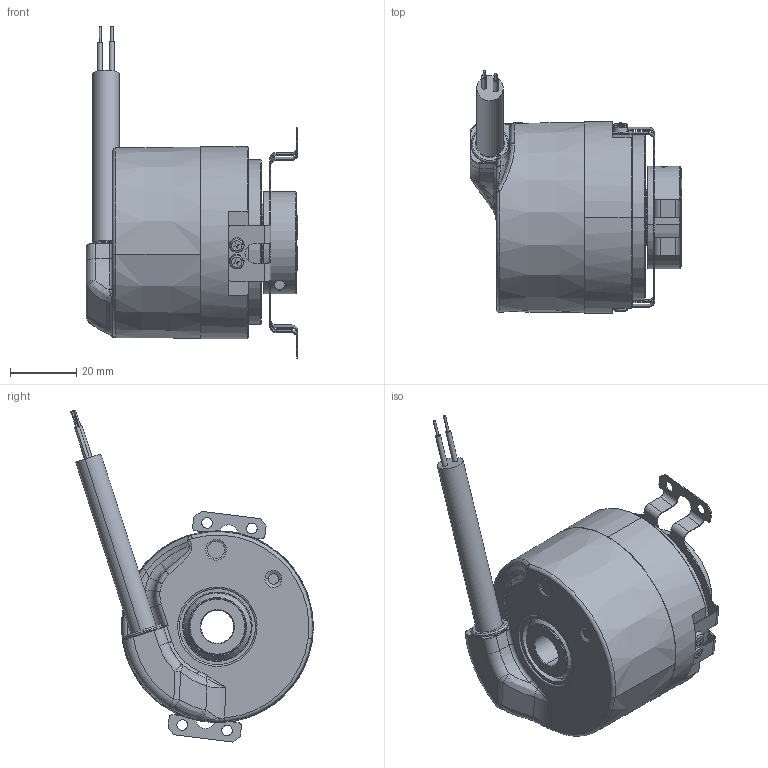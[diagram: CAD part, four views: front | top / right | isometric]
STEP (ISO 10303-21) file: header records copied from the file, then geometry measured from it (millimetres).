
FILE_DESCRIPTION (( 'STEP AP203' ), '1' );
FILE_NAME ('8.5834FSX.B3XE.XXXX.STEP', '2013-08-01T13:27:33', ( 'Admin' ), ( 'Fritz Kübler GmbH' ), 'SwSTEP 2.0', 'SolidWorks 2012', '' );
FILE_SCHEMA (( 'CONFIG_CONTROL_DESIGN' ));
Length unit declared in the file: millimetre
Products named in the file (1): 8.5834FSX.B3XE.XXXX
Bounding box: 64 x 73.34 x 100.32 mm (x, y, z)
Volume: 73869 mm3; surface area: 50963.3 mm2
Topology: 15 solids, 16 shells, 1800 faces, 4376 edges, 2616 vertices
Faces by surface type: cylinder 594, plane 454, bspline 365, torus 168, cone 165, sphere 54
Entity records: 64751 total; most frequent: CARTESIAN_POINT 25657, ORIENTED_EDGE 8512, DIRECTION 7774, EDGE_CURVE 4256, AXIS2_PLACEMENT_3D 3162, VERTEX_POINT 2580, EDGE_LOOP 1980, FACE_OUTER_BOUND 1800
